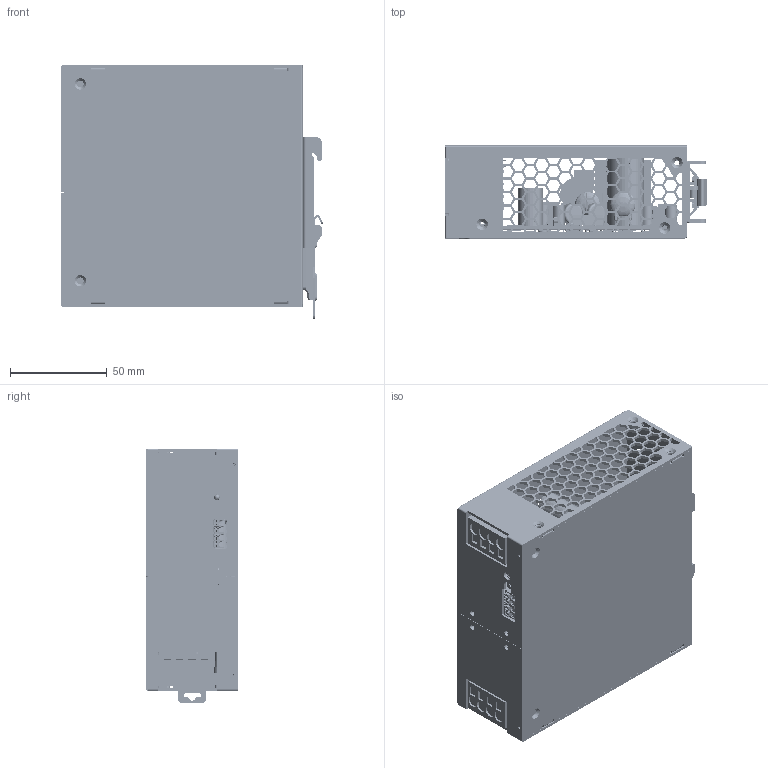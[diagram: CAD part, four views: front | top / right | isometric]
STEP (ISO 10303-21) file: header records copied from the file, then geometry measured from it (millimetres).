
FILE_DESCRIPTION(('Creo Elements/Direct Modeling STEP Export'),'2;1');
FILE_NAME('XTR-240PI.stp','2025-02-12T19:11:00',(''),(''),'Creo Elements/Direct Modeling STEP processor for AP214 (Solid Model)','Creo Elements/Direct Modeling 19.0G 27-Nov-2017 (C) Parametric Technology GmbH','');
FILE_SCHEMA(('AUTOMOTIVE_DESIGN { 1 0 10303 214 1 1 1 1 }'));
Length unit declared in the file: millimetre
Products named in the file (607): BOARD.PRT; MPX410H-6358043701_20241017.PRT; TB1B.ASM; 1GG4CU-SZ039.PRT; SZ039.ASM; FG1.ASM; FG2.ASM; EXTRUDED-28142.PRT; 985817648.ASM; CYLINDER-28514.PRT; 987920984.ASM.5; C1.ASM; C2.ASM; C3.ASM; 1BC1-Y-L140W040-P100.PRT; C168.ASM; C169.ASM; TVR10471KFC3FW.PRT; ZR3.ASM; ZR2.ASM; ZR1.ASM; 943947192_1.PRT; 943947192_2.PRT; 943947192_3.PRT; 943947192_4.PRT; 943947192.ASM; R1.ASM; 943947040_1.PRT; 943947040_2.PRT; 943947040_3.PRT; 943947040_4.PRT; 943947040.ASM; R2.ASM; R3.ASM; R4.ASM; R5.ASM; R6.ASM; R7.ASM; R8.ASM; R9.ASM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
Assembly tree (930 placements, depth 8):
  BPI
    XTR-240A-R1X.step.1
      PCB.ASM
        RJ1.ASM
          1000108304.ASM
            1000108304_4.PRT
            1000108304_3.PRT
            1000108304_2.PRT
            1000108304_1.PRT
        T3.ASM
          1DL5-EE-13-10P-VT.ASM
            1DL5-EE-13-10P-VT_20.PRT
            1DL5-EE-13-10P-VT_19.PRT
            1DL5-EE-13-10P-VT_18.PRT
            1DL5-EE-13-10P-VT_17.PRT
            1DL5-EE-13-10P-VT_16.PRT
            1DL5-EE-13-10P-VT_15.PRT
            1DL5-EE-13-10P-VT_14.PRT
            1DL5-EE-13-10P-VT_13.PRT
            1DL5-EE-13-10P-VT_12.PRT
            1DL5-EE-13-10P-VT_11.PRT
            1DL5-EE-13-10P-VT_10.PRT
            1DL5-EE-13-10P-VT_9.PRT
            1DL5-EE-13-10P-VT_8.PRT
            1DL5-EE-13-10P-VT_7.PRT
            1DL5-EE-13-10P-VT_6.PRT
            1DL5-EE-13-10P-VT_5.PRT
            1DL5-EE-13-10P-VT_4.PRT
            1DL5-EE-13-10P-VT_3.PRT
            1DL5-EE-13-10P-VT_2.PRT
            1DL5-EE-13-10P-VT_1.PRT
        R120.ASM
          1000105264.ASM
            1000105264_4.PRT
            1000105264_3.PRT
            1000105264_2.PRT
            1000105264_1.PRT
        D42.ASM
          2CDX-SMA.PRT
        D41.ASM
          2CDX-SMA.PRT
        D40.ASM
          2CDX-SMA.PRT
        D39.ASM
          2CDX-SMA.PRT
        R186.ASM
          1000105416.ASM
            1000105416_4.PRT
            1000105416_3.PRT
            1000105416_2.PRT
            1000105416_1.PRT
        C54.ASM
          1000109064.PRT
        C43.ASM
          949985888.PRT
        TSW1.ASM
          1039483776.ASM.9  x2
            EXTRUDED-498620.PRT
          1039483616.ASM
            EXTRUDED-498248.PRT
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Bounding box: 136.2 x 48 x 131.69 mm (x, y, z)
Volume: 234168.4 mm3; surface area: 225442.4 mm2
Topology: 787 solids, 789 shells, 20593 faces, 53793 edges, 35197 vertices
Faces by surface type: plane 12663, extrusion 4242, cylinder 2633, sphere 431, torus 286, bspline 211, cone 102, revolution 25
Entity records: 341510 total; most frequent: CARTESIAN_POINT 107543, ORIENTED_EDGE 42972, DIRECTION 38295, EDGE_CURVE 21514, VECTOR 16597, LINE 16006, VERTEX_POINT 14174, AXIS2_PLACEMENT_3D 10844
